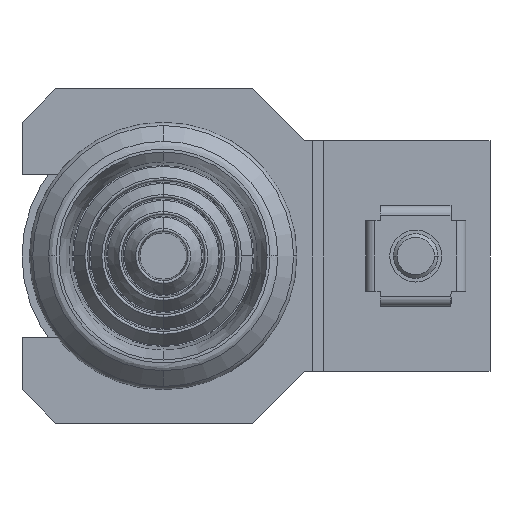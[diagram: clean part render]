
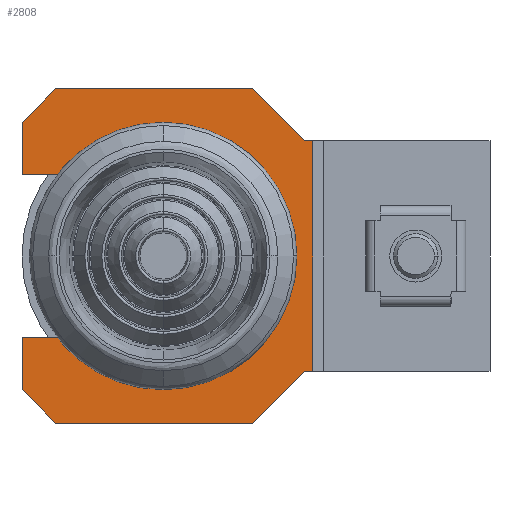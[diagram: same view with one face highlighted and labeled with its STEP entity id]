
A CAD part, left-side view. The second image highlights one B-rep face of the part: STEP entity #2808.
In plain terms, the highlighted planar face has unit normal (-1, 0, 0).
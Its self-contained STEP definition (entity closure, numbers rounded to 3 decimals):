
#65 = DIRECTION ( 'NONE',  ( 0., -0.707, 0.707 ) ) ;
#79 = ORIENTED_EDGE ( 'NONE', *, *, #883, .T. ) ;
#303 = ORIENTED_EDGE ( 'NONE', *, *, #5996, .T. ) ;
#445 = PLANE ( 'NONE',  #7316 ) ;
#557 = DIRECTION ( 'NONE',  ( 0., -0.707, -0.707 ) ) ;
#570 = EDGE_CURVE ( 'NONE', #6375, #5839, #2329, .T. ) ;
#626 = EDGE_CURVE ( 'NONE', #8169, #6057, #8542, .T. ) ;
#655 = EDGE_CURVE ( 'NONE', #5309, #1444, #6513, .T. ) ;
#872 = VECTOR ( 'NONE', #4474, 1000. ) ;
#883 = EDGE_CURVE ( 'NONE', #5839, #9341, #4517, .T. ) ;
#889 = DIRECTION ( 'NONE',  ( 0., 1., 0. ) ) ;
#1005 = LINE ( 'NONE', #6728, #9420 ) ;
#1025 = CARTESIAN_POINT ( 'NONE',  ( -1.5, 0., -15.5 ) ) ;
#1047 = DIRECTION ( 'NONE',  ( 0., 0., 1. ) ) ;
#1087 = VECTOR ( 'NONE', #6896, 1000. ) ;
#1230 = ORIENTED_EDGE ( 'NONE', *, *, #7478, .T. ) ;
#1444 = VERTEX_POINT ( 'NONE', #4525 ) ;
#1546 = CARTESIAN_POINT ( 'NONE',  ( -1.5, 14.914, 15.5 ) ) ;
#1563 = VERTEX_POINT ( 'NONE', #7093 ) ;
#1621 = CARTESIAN_POINT ( 'NONE',  ( -1.5, 13.879, 15.5 ) ) ;
#2179 = AXIS2_PLACEMENT_3D ( 'NONE', #3992, #6913, #3270 ) ;
#2229 = CARTESIAN_POINT ( 'NONE',  ( -1.5, 48.5, 22.5 ) ) ;
#2329 = CIRCLE ( 'NONE', #2179, 16. ) ;
#2489 = CARTESIAN_POINT ( 'NONE',  ( -1.5, 53., 18. ) ) ;
#2561 = VERTEX_POINT ( 'NONE', #3692 ) ;
#2568 = EDGE_CURVE ( 'NONE', #6745, #6863, #8686, .T. ) ;
#2645 = ORIENTED_EDGE ( 'NONE', *, *, #570, .T. ) ;
#2716 = ORIENTED_EDGE ( 'NONE', *, *, #5021, .T. ) ;
#2808 = ADVANCED_FACE ( 'NONE', ( #4179 ), #445, .F. ) ;
#3114 = LINE ( 'NONE', #1025, #7156 ) ;
#3129 = ORIENTED_EDGE ( 'NONE', *, *, #6478, .F. ) ;
#3261 = DIRECTION ( 'NONE',  ( 0., 1., 0. ) ) ;
#3270 = DIRECTION ( 'NONE',  ( 0., 1., 0. ) ) ;
#3326 = CARTESIAN_POINT ( 'NONE',  ( -1.5, 45.619, 11. ) ) ;
#3515 = VERTEX_POINT ( 'NONE', #7108 ) ;
#3521 = CARTESIAN_POINT ( 'NONE',  ( -1.5, 14.914, -15.5 ) ) ;
#3562 = DIRECTION ( 'NONE',  ( 0., -1., 0. ) ) ;
#3598 = CARTESIAN_POINT ( 'NONE',  ( -1.5, 19.414, 22.5 ) ) ;
#3692 = CARTESIAN_POINT ( 'NONE',  ( -1.5, 53., 11. ) ) ;
#3966 = ORIENTED_EDGE ( 'NONE', *, *, #2568, .T. ) ;
#3992 = CARTESIAN_POINT ( 'NONE',  ( -1.5, 34., 0. ) ) ;
#4094 = DIRECTION ( 'NONE',  ( 0., -1., 0. ) ) ;
#4125 = ORIENTED_EDGE ( 'NONE', *, *, #626, .T. ) ;
#4179 = FACE_OUTER_BOUND ( 'NONE', #4432, .T. ) ;
#4432 = EDGE_LOOP ( 'NONE', ( #3966, #303, #8328, #3129, #9067, #4125, #1230, #8880, #9422, #2645, #79, #7835, #6477, #2716 ) ) ;
#4474 = DIRECTION ( 'NONE',  ( 0., 0.707, 0.707 ) ) ;
#4517 = LINE ( 'NONE', #7430, #5377 ) ;
#4525 = CARTESIAN_POINT ( 'NONE',  ( -1.5, 13.879, -15.5 ) ) ;
#4631 = VECTOR ( 'NONE', #7188, 1000. ) ;
#4699 = LINE ( 'NONE', #2489, #5191 ) ;
#4752 = DIRECTION ( 'NONE',  ( 1., 0., 0. ) ) ;
#4839 = VECTOR ( 'NONE', #4094, 1000. ) ;
#4900 = CARTESIAN_POINT ( 'NONE',  ( -1.5, 13.879, 18. ) ) ;
#4943 = EDGE_CURVE ( 'NONE', #1563, #5625, #6287, .T. ) ;
#4970 = LINE ( 'NONE', #7081, #6736 ) ;
#5021 = EDGE_CURVE ( 'NONE', #5625, #6745, #7146, .T. ) ;
#5169 = EDGE_CURVE ( 'NONE', #3515, #8169, #8104, .T. ) ;
#5191 = VECTOR ( 'NONE', #8999, 1000. ) ;
#5237 = CARTESIAN_POINT ( 'NONE',  ( -1.5, 53., 18. ) ) ;
#5309 = VERTEX_POINT ( 'NONE', #1621 ) ;
#5377 = VECTOR ( 'NONE', #889, 1000. ) ;
#5403 = LINE ( 'NONE', #5448, #1087 ) ;
#5448 = CARTESIAN_POINT ( 'NONE',  ( -1.5, 48.5, 22.5 ) ) ;
#5479 = VECTOR ( 'NONE', #65, 1000. ) ;
#5625 = VERTEX_POINT ( 'NONE', #6003 ) ;
#5839 = VERTEX_POINT ( 'NONE', #8403 ) ;
#5996 = EDGE_CURVE ( 'NONE', #6863, #1444, #3114, .T. ) ;
#6003 = CARTESIAN_POINT ( 'NONE',  ( -1.5, 48.5, -22.5 ) ) ;
#6057 = VERTEX_POINT ( 'NONE', #2229 ) ;
#6189 = EDGE_CURVE ( 'NONE', #1563, #9341, #1005, .T. ) ;
#6273 = CARTESIAN_POINT ( 'NONE',  ( -1.5, 0., 0. ) ) ;
#6287 = LINE ( 'NONE', #9196, #7738 ) ;
#6375 = VERTEX_POINT ( 'NONE', #3326 ) ;
#6469 = DIRECTION ( 'NONE',  ( 0., 1., 0. ) ) ;
#6477 = ORIENTED_EDGE ( 'NONE', *, *, #4943, .T. ) ;
#6478 = EDGE_CURVE ( 'NONE', #3515, #5309, #8772, .T. ) ;
#6513 = LINE ( 'NONE', #4900, #4631 ) ;
#6728 = CARTESIAN_POINT ( 'NONE',  ( -1.5, 53., 18. ) ) ;
#6736 = VECTOR ( 'NONE', #9313, 1000. ) ;
#6745 = VERTEX_POINT ( 'NONE', #6925 ) ;
#6847 = CARTESIAN_POINT ( 'NONE',  ( -1.5, 21.914, 22.5 ) ) ;
#6863 = VERTEX_POINT ( 'NONE', #3521 ) ;
#6896 = DIRECTION ( 'NONE',  ( 0., 0.707, -0.707 ) ) ;
#6913 = DIRECTION ( 'NONE',  ( 1., 0., 0. ) ) ;
#6925 = CARTESIAN_POINT ( 'NONE',  ( -1.5, 21.914, -22.5 ) ) ;
#7081 = CARTESIAN_POINT ( 'NONE',  ( -1.5, 53., 11. ) ) ;
#7093 = CARTESIAN_POINT ( 'NONE',  ( -1.5, 53., -18. ) ) ;
#7108 = CARTESIAN_POINT ( 'NONE',  ( -1.5, 14.914, 15.5 ) ) ;
#7143 = VECTOR ( 'NONE', #3562, 1000. ) ;
#7146 = LINE ( 'NONE', #8690, #4839 ) ;
#7156 = VECTOR ( 'NONE', #7517, 1000. ) ;
#7188 = DIRECTION ( 'NONE',  ( 0., 0., -1. ) ) ;
#7201 = CARTESIAN_POINT ( 'NONE',  ( -1.5, 53., -11. ) ) ;
#7316 = AXIS2_PLACEMENT_3D ( 'NONE', #6273, #4752, #3261 ) ;
#7430 = CARTESIAN_POINT ( 'NONE',  ( -1.5, 45.619, -11. ) ) ;
#7478 = EDGE_CURVE ( 'NONE', #6057, #8406, #5403, .T. ) ;
#7517 = DIRECTION ( 'NONE',  ( 0., -1., 0. ) ) ;
#7592 = EDGE_CURVE ( 'NONE', #2561, #8406, #4699, .T. ) ;
#7727 = EDGE_CURVE ( 'NONE', #2561, #6375, #4970, .T. ) ;
#7738 = VECTOR ( 'NONE', #557, 1000. ) ;
#7835 = ORIENTED_EDGE ( 'NONE', *, *, #6189, .F. ) ;
#7919 = CARTESIAN_POINT ( 'NONE',  ( -1.5, 14.914, -15.5 ) ) ;
#7972 = CARTESIAN_POINT ( 'NONE',  ( -1.5, 14.914, 15.5 ) ) ;
#8104 = LINE ( 'NONE', #1546, #872 ) ;
#8169 = VERTEX_POINT ( 'NONE', #6847 ) ;
#8328 = ORIENTED_EDGE ( 'NONE', *, *, #655, .F. ) ;
#8403 = CARTESIAN_POINT ( 'NONE',  ( -1.5, 45.619, -11. ) ) ;
#8406 = VERTEX_POINT ( 'NONE', #5237 ) ;
#8542 = LINE ( 'NONE', #3598, #9345 ) ;
#8686 = LINE ( 'NONE', #7919, #5479 ) ;
#8690 = CARTESIAN_POINT ( 'NONE',  ( -1.5, 48.5, -22.5 ) ) ;
#8772 = LINE ( 'NONE', #7972, #7143 ) ;
#8880 = ORIENTED_EDGE ( 'NONE', *, *, #7592, .F. ) ;
#8999 = DIRECTION ( 'NONE',  ( 0., 0., 1. ) ) ;
#9067 = ORIENTED_EDGE ( 'NONE', *, *, #5169, .T. ) ;
#9196 = CARTESIAN_POINT ( 'NONE',  ( -1.5, 53., -18. ) ) ;
#9313 = DIRECTION ( 'NONE',  ( 0., -1., 0. ) ) ;
#9341 = VERTEX_POINT ( 'NONE', #7201 ) ;
#9345 = VECTOR ( 'NONE', #6469, 1000. ) ;
#9420 = VECTOR ( 'NONE', #1047, 1000. ) ;
#9422 = ORIENTED_EDGE ( 'NONE', *, *, #7727, .T. ) ;
